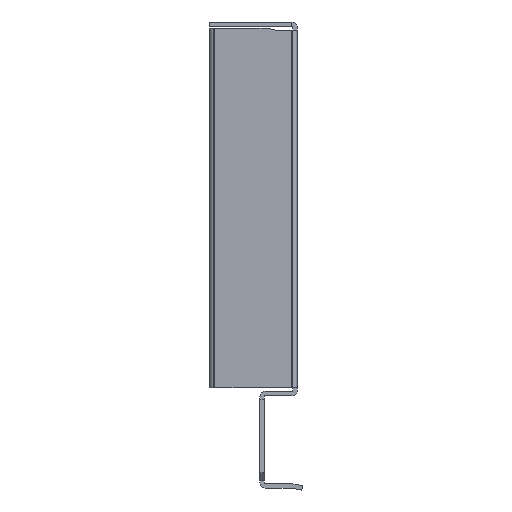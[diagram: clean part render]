
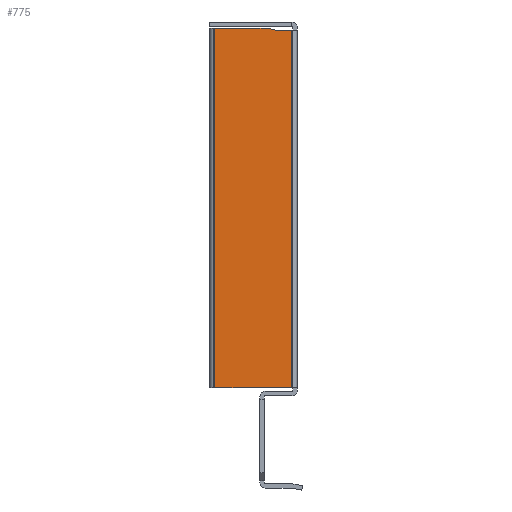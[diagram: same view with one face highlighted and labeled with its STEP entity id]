
A CAD part, left-side view. The second image highlights one B-rep face of the part: STEP entity #775.
In plain terms, the highlighted planar face has unit normal (-1, 0, 0).
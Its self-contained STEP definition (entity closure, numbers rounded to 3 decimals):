
#9 = VERTEX_POINT ( 'NONE', #480 ) ;
#84 = VERTEX_POINT ( 'NONE', #452 ) ;
#268 = DIRECTION ( 'NONE',  ( 0., 0., -1. ) ) ;
#270 = CARTESIAN_POINT ( 'NONE',  ( -330., -5., 101.385 ) ) ;
#271 = DIRECTION ( 'NONE',  ( 0., -0.966, -0.259 ) ) ;
#273 = CARTESIAN_POINT ( 'NONE',  ( -330., 0.612, 83.2 ) ) ;
#274 = DIRECTION ( 'NONE',  ( 0., -1., 0. ) ) ;
#276 = CARTESIAN_POINT ( 'NONE',  ( -330., -2., 82.5 ) ) ;
#277 = DIRECTION ( 'NONE',  ( 0., 0., -1. ) ) ;
#279 = CARTESIAN_POINT ( 'NONE',  ( -330., 9., 101.385 ) ) ;
#337 = CARTESIAN_POINT ( 'NONE',  ( -330., -5., 82.5 ) ) ;
#341 = CARTESIAN_POINT ( 'NONE',  ( -330., -5., 17.5 ) ) ;
#348 = CARTESIAN_POINT ( 'NONE',  ( -330., -2., 82.5 ) ) ;
#376 = CARTESIAN_POINT ( 'NONE',  ( -330., 9., 82.9 ) ) ;
#452 = CARTESIAN_POINT ( 'NONE',  ( -330., 9., 17.5 ) ) ;
#480 = CARTESIAN_POINT ( 'NONE',  ( -330., -0.507, 82.9 ) ) ;
#503 = VERTEX_POINT ( 'NONE', #376 ) ;
#531 = VERTEX_POINT ( 'NONE', #348 ) ;
#538 = VERTEX_POINT ( 'NONE', #341 ) ;
#542 = VERTEX_POINT ( 'NONE', #337 ) ;
#567 = EDGE_CURVE ( 'NONE', #503, #84, #1985, .T. ) ;
#568 = EDGE_CURVE ( 'NONE', #531, #542, #1988, .T. ) ;
#569 = EDGE_CURVE ( 'NONE', #9, #531, #1990, .T. ) ;
#570 = EDGE_CURVE ( 'NONE', #542, #538, #1992, .T. ) ;
#665 = AXIS2_PLACEMENT_3D ( 'NONE', #1513, #1505, #1501 ) ;
#775 = ADVANCED_FACE ( 'NONE', ( #2108 ), #1514, .T. ) ;
#831 = EDGE_CURVE ( 'NONE', #538, #84, #2188, .T. ) ;
#840 = EDGE_CURVE ( 'NONE', #9, #503, #2203, .T. ) ;
#1060 = EDGE_LOOP ( 'NONE', ( #1863, #1864, #1865, #1866, #1867, #1868 ) ) ;
#1389 = DIRECTION ( 'NONE',  ( 0., 1., 0. ) ) ;
#1391 = CARTESIAN_POINT ( 'NONE',  ( -330., -5., 82.9 ) ) ;
#1407 = DIRECTION ( 'NONE',  ( 0., 1., 0. ) ) ;
#1409 = CARTESIAN_POINT ( 'NONE',  ( -330., -5., 17.5 ) ) ;
#1501 = DIRECTION ( 'NONE',  ( 0., -1., 0. ) ) ;
#1505 = DIRECTION ( 'NONE',  ( -1., 0., 0. ) ) ;
#1513 = CARTESIAN_POINT ( 'NONE',  ( -330., -5., 101.385 ) ) ;
#1514 = PLANE ( 'NONE',  #665 ) ;
#1863 = ORIENTED_EDGE ( 'NONE', *, *, #568, .F. ) ;
#1864 = ORIENTED_EDGE ( 'NONE', *, *, #569, .F. ) ;
#1865 = ORIENTED_EDGE ( 'NONE', *, *, #840, .T. ) ;
#1866 = ORIENTED_EDGE ( 'NONE', *, *, #567, .T. ) ;
#1867 = ORIENTED_EDGE ( 'NONE', *, *, #831, .F. ) ;
#1868 = ORIENTED_EDGE ( 'NONE', *, *, #570, .F. ) ;
#1985 = LINE ( 'NONE', #279, #1987 ) ;
#1987 = VECTOR ( 'NONE', #277, 1000. ) ;
#1988 = LINE ( 'NONE', #276, #1989 ) ;
#1989 = VECTOR ( 'NONE', #274, 1000. ) ;
#1990 = LINE ( 'NONE', #273, #1991 ) ;
#1991 = VECTOR ( 'NONE', #271, 1000. ) ;
#1992 = LINE ( 'NONE', #270, #1993 ) ;
#1993 = VECTOR ( 'NONE', #268, 1000. ) ;
#2108 = FACE_OUTER_BOUND ( 'NONE', #1060, .T. ) ;
#2188 = LINE ( 'NONE', #1409, #2190 ) ;
#2190 = VECTOR ( 'NONE', #1407, 1000. ) ;
#2203 = LINE ( 'NONE', #1391, #2205 ) ;
#2205 = VECTOR ( 'NONE', #1389, 1000. ) ;
